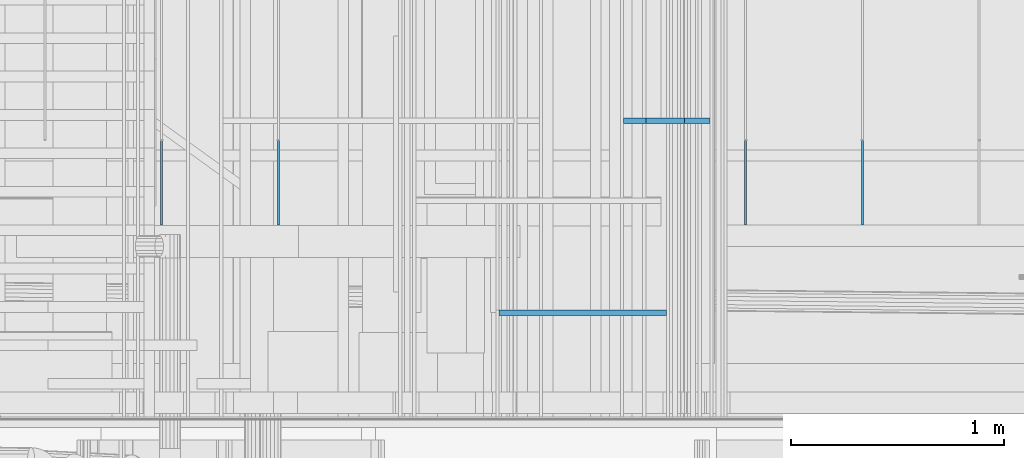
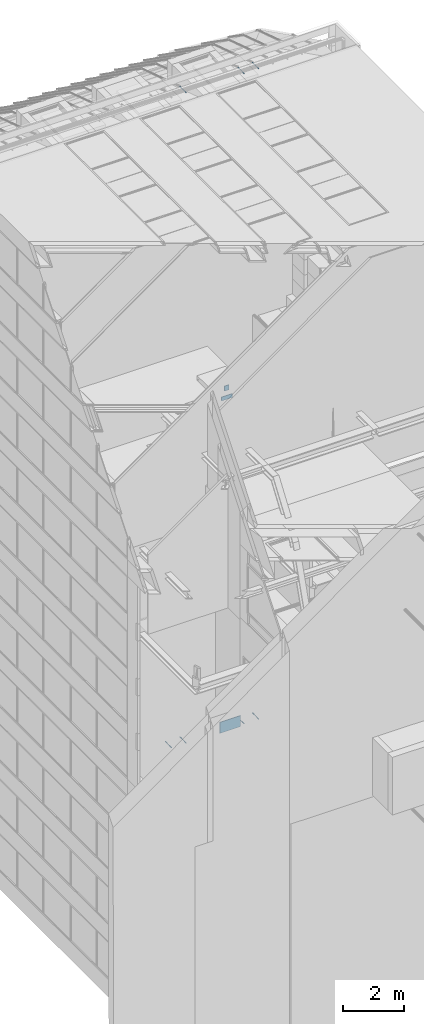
# One storey, part 309 of 583: 10 slabs.
"""IFC2X3 building model written with IfcOpenShell, lengths in metres."""

from ifc_helpers import new_model, entity, si_unit, converted_unit, derived_unit, money_unit, direction, frame, origin_with_axes, place, context, subcontext, project, spatial, faceted_brep, material, type_object, element, save


model = new_model("IFC2X3")

# Units and contexts
model_context = context("Model", 3, precision=1e-05, world=origin_with_axes(), true_north=direction((0.0, 1.0)))
body_context = subcontext(model_context, "Body", "Model", "MODEL_VIEW", scale=1.0)
ifc_project = project(units=[si_unit("LENGTHUNIT", "METRE"), si_unit("AREAUNIT", "SQUARE_METRE"), si_unit("VOLUMEUNIT", "CUBIC_METRE"), si_unit("ABSORBEDDOSEUNIT", "GRAY"), si_unit("AMOUNTOFSUBSTANCEUNIT", "MOLE"), si_unit("DOSEEQUIVALENTUNIT", "SIEVERT"), si_unit("ELECTRICCAPACITANCEUNIT", "FARAD"), si_unit("ELECTRICCHARGEUNIT", "COULOMB"), si_unit("ELECTRICCONDUCTANCEUNIT", "SIEMENS"), si_unit("ELECTRICCURRENTUNIT", "AMPERE"), si_unit("ELECTRICRESISTANCEUNIT", "OHM"), si_unit("ELECTRICVOLTAGEUNIT", "VOLT"), si_unit("ENERGYUNIT", "JOULE"), si_unit("FORCEUNIT", "NEWTON"), si_unit("FREQUENCYUNIT", "HERTZ"), si_unit("ILLUMINANCEUNIT", "LUX"), si_unit("INDUCTANCEUNIT", "HENRY"), si_unit("LUMINOUSFLUXUNIT", "LUMEN"), si_unit("LUMINOUSINTENSITYUNIT", "CANDELA"), si_unit("MAGNETICFLUXDENSITYUNIT", "TESLA"), si_unit("MAGNETICFLUXUNIT", "WEBER"), si_unit("MASSUNIT", "GRAM"), converted_unit("PLANEANGLEUNIT", "degree", entity("IfcReal", 0.0174532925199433), si_unit("PLANEANGLEUNIT", "RADIAN"), dimensions=[0, 0, 0, 0, 0, 0, 0]), si_unit("POWERUNIT", "WATT"), si_unit("PRESSUREUNIT", "PASCAL"), si_unit("RADIOACTIVITYUNIT", "BECQUEREL"), si_unit("SOLIDANGLEUNIT", "STERADIAN"), si_unit("THERMODYNAMICTEMPERATUREUNIT", "KELVIN"), si_unit("TIMEUNIT", "SECOND"), derived_unit("ACCELERATIONUNIT", [(si_unit("LENGTHUNIT", "METRE"), 1), (si_unit("TIMEUNIT", "SECOND"), -2)]), derived_unit("ANGULARVELOCITYUNIT", [(converted_unit("PLANEANGLEUNIT", "degree", entity("IfcReal", 0.0174532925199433), si_unit("PLANEANGLEUNIT", "RADIAN"), dimensions=[0, 0, 0, 0, 0, 0, 0]), 1), (si_unit("TIMEUNIT", "SECOND"), -1)]), derived_unit("CURVATUREUNIT", [(converted_unit("PLANEANGLEUNIT", "degree", entity("IfcReal", 0.0174532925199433), si_unit("PLANEANGLEUNIT", "RADIAN"), dimensions=[0, 0, 0, 0, 0, 0, 0]), 1), (si_unit("LENGTHUNIT", "METRE"), -1)]), derived_unit("DYNAMICVISCOSITYUNIT", [(si_unit("PRESSUREUNIT", "PASCAL"), 1), (si_unit("TIMEUNIT", "SECOND"), 1)]), derived_unit("HEATFLUXDENSITYUNIT", [(si_unit("POWERUNIT", "WATT"), 1), (si_unit("LENGTHUNIT", "METRE"), -2)]), derived_unit("HEATINGVALUEUNIT", [(si_unit("ENERGYUNIT", "JOULE"), 1), (si_unit("MASSUNIT", "GRAM"), -1)]), derived_unit("INTEGERCOUNTRATEUNIT", [(si_unit("TIMEUNIT", "SECOND"), -1)]), derived_unit("IONCONCENTRATIONUNIT", [(si_unit("MASSUNIT", "GRAM"), 1), (si_unit("VOLUMEUNIT", "CUBIC_METRE"), -1)]), derived_unit("ISOTHERMALMOISTURECAPACITYUNIT", [(si_unit("VOLUMEUNIT", "CUBIC_METRE"), 1), (si_unit("MASSUNIT", "GRAM"), -1)]), derived_unit("KINEMATICVISCOSITYUNIT", [(si_unit("AREAUNIT", "SQUARE_METRE"), 1), (si_unit("TIMEUNIT", "SECOND"), -1)]), derived_unit("LINEARFORCEUNIT", [(si_unit("FORCEUNIT", "NEWTON"), 1), (si_unit("LENGTHUNIT", "METRE"), -1)]), derived_unit("LINEARMOMENTUNIT", [(si_unit("FORCEUNIT", "NEWTON"), 1), (si_unit("LENGTHUNIT", "METRE"), -1)]), derived_unit("LINEARSTIFFNESSUNIT", [(si_unit("FORCEUNIT", "NEWTON"), 1), (si_unit("LENGTHUNIT", "METRE"), -1)]), derived_unit("LINEARVELOCITYUNIT", [(si_unit("LENGTHUNIT", "METRE"), 1), (si_unit("TIMEUNIT", "SECOND"), -1)]), derived_unit("LUMINOUSINTENSITYDISTRIBUTIONUNIT", [(si_unit("LUMINOUSINTENSITYUNIT", "CANDELA"), 1), (si_unit("LUMINOUSFLUXUNIT", "LUMEN"), -1)]), derived_unit("MASSDENSITYUNIT", [(si_unit("MASSUNIT", "GRAM"), 1), (si_unit("VOLUMEUNIT", "CUBIC_METRE"), -1)]), derived_unit("MASSFLOWRATEUNIT", [(si_unit("MASSUNIT", "GRAM"), 1), (si_unit("TIMEUNIT", "SECOND"), -1)]), derived_unit("MASSPERLENGTHUNIT", [(si_unit("MASSUNIT", "GRAM"), 1), (si_unit("LENGTHUNIT", "METRE"), -1)]), derived_unit("MODULUSOFELASTICITYUNIT", [(si_unit("FORCEUNIT", "NEWTON"), 1), (si_unit("AREAUNIT", "SQUARE_METRE"), -1)]), derived_unit("MODULUSOFLINEARSUBGRADEREACTIONUNIT", [(si_unit("FORCEUNIT", "NEWTON"), 1), (si_unit("LENGTHUNIT", "METRE"), -2)]), derived_unit("MODULUSOFROTATIONALSUBGRADEREACTIONUNIT", [(si_unit("FORCEUNIT", "NEWTON"), 1), (si_unit("LENGTHUNIT", "METRE"), 1)]), derived_unit("MODULUSOFSUBGRADEREACTIONUNIT", [(si_unit("FORCEUNIT", "NEWTON"), 1), (si_unit("VOLUMEUNIT", "CUBIC_METRE"), -1)]), derived_unit("MOISTUREDIFFUSIVITYUNIT", [(si_unit("VOLUMEUNIT", "CUBIC_METRE"), 1), (si_unit("TIMEUNIT", "SECOND"), -1)]), derived_unit("MOLECULARWEIGHTUNIT", [(si_unit("MASSUNIT", "GRAM"), 1), (si_unit("AMOUNTOFSUBSTANCEUNIT", "MOLE"), -1)]), derived_unit("PLANARFORCEUNIT", [(si_unit("FORCEUNIT", "NEWTON"), 1), (si_unit("LENGTHUNIT", "METRE"), -2)]), derived_unit("ROTATIONALFREQUENCYUNIT", [(si_unit("TIMEUNIT", "SECOND"), -1)]), derived_unit("ROTATIONALMASSUNIT", [(si_unit("MASSUNIT", "GRAM"), 1), (si_unit("LENGTHUNIT", "METRE"), 2)]), derived_unit("ROTATIONALSTIFFNESSUNIT", [(si_unit("FORCEUNIT", "NEWTON"), 1), (si_unit("LENGTHUNIT", "METRE"), 1), (converted_unit("PLANEANGLEUNIT", "degree", entity("IfcReal", 0.0174532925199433), si_unit("PLANEANGLEUNIT", "RADIAN"), dimensions=[0, 0, 0, 0, 0, 0, 0]), -1)]), derived_unit("SECTIONAREAINTEGRALUNIT", [(si_unit("LENGTHUNIT", "METRE"), 5)]), derived_unit("SECTIONMODULUSUNIT", [(si_unit("LENGTHUNIT", "METRE"), 3)]), derived_unit("SHEARMODULUSUNIT", [(si_unit("FORCEUNIT", "NEWTON"), 1), (si_unit("AREAUNIT", "SQUARE_METRE"), -1)]), derived_unit("SOUNDPOWERUNIT", [(si_unit("ENERGYUNIT", "JOULE"), 1), (si_unit("TIMEUNIT", "SECOND"), -1)]), derived_unit("SPECIFICHEATCAPACITYUNIT", [(si_unit("FORCEUNIT", "NEWTON"), 1), (si_unit("MASSUNIT", "GRAM"), -1), (si_unit("THERMODYNAMICTEMPERATUREUNIT", "KELVIN"), -1)]), derived_unit("TEMPERATUREGRADIENTUNIT", [(si_unit("THERMODYNAMICTEMPERATUREUNIT", "KELVIN"), 1), (si_unit("LENGTHUNIT", "METRE"), -1)]), derived_unit("THERMALADMITTANCEUNIT", [(si_unit("POWERUNIT", "WATT"), 1), (si_unit("AREAUNIT", "SQUARE_METRE"), -1), (si_unit("THERMODYNAMICTEMPERATUREUNIT", "KELVIN"), -1)]), derived_unit("THERMALCONDUCTANCEUNIT", [(si_unit("POWERUNIT", "WATT"), 1), (si_unit("LENGTHUNIT", "METRE"), -1), (si_unit("THERMODYNAMICTEMPERATUREUNIT", "KELVIN"), -1)]), derived_unit("THERMALEXPANSIONCOEFFICIENTUNIT", [(si_unit("THERMODYNAMICTEMPERATUREUNIT", "KELVIN"), -1)]), derived_unit("THERMALRESISTANCEUNIT", [(si_unit("AREAUNIT", "SQUARE_METRE"), 1), (si_unit("POWERUNIT", "WATT"), -1)]), derived_unit("THERMALTRANSMITTANCEUNIT", [(si_unit("POWERUNIT", "WATT"), 1), (si_unit("AREAUNIT", "SQUARE_METRE"), -1), (si_unit("THERMODYNAMICTEMPERATUREUNIT", "KELVIN"), -1)]), derived_unit("TORQUEUNIT", [(si_unit("FORCEUNIT", "NEWTON"), 1), (si_unit("LENGTHUNIT", "METRE"), 1)]), derived_unit("VAPORPERMEABILITYUNIT", [(si_unit("MASSUNIT", "GRAM"), 1), (si_unit("TIMEUNIT", "SECOND"), -1)]), derived_unit("VOLUMETRICFLOWRATEUNIT", [(si_unit("VOLUMEUNIT", "CUBIC_METRE"), 1), (si_unit("TIMEUNIT", "SECOND"), -1)]), derived_unit("WARPINGCONSTANTUNIT", [(si_unit("LENGTHUNIT", "METRE"), 6)]), derived_unit("WARPINGMOMENTUNIT", [(si_unit("FORCEUNIT", "NEWTON"), 1), (si_unit("LENGTHUNIT", "METRE"), 2)]), money_unit("GBP")], contexts=[model_context])

# Site, building, storey
site_placement = place(None, origin_with_axes())
site = spatial("IfcSite", under=ifc_project, at=site_placement, Name="Site", CompositionType="ELEMENT")
building_placement = place(site_placement, origin_with_axes())
building = spatial("IfcBuilding", under=site, at=building_placement, Name="Building01", CompositionType="ELEMENT")
storey_placement = place(building_placement, frame((0.0, 0.0, 20.78), z_axis=(0.0, 0.0, 1.0), x_axis=(1.0, 0.0, 0.0)))
storey = spatial("IfcBuildingStorey", under=building, at=storey_placement, Name="RL", CompositionType="ELEMENT", Elevation=20.78)

# Slabs
ifc_material_1 = material(Name="A_BSUK_Ceramic_WallTiles")
slab_type = type_object("IfcSlabType", Name="A-FloorsSlabs A_BSUK_Slabs", PredefinedType="FLOOR")
placement = place(storey_placement, frame((0.0, 0.0, -20.78), z_axis=(0.0, 0.0, 1.0), x_axis=(1.0, 0.0, 0.0)))
element("IfcSlab", 1, at=placement, inside=storey, type_object=slab_type, material=ifc_material_1, Name="A-FloorsSlabs A_BSUK_Slabs", ObjectType="CompoundSlabLeaf", context=body_context, shape_type="Brep", body=[
    faceted_brep([(10.698806, 16.355, 13.44999), (10.698806, 16.38, 13.44999), (10.698806, 16.38, 13.29737), (10.698806, 16.355, 13.29737), (11.103849, 16.355, 13.44999), (11.103849, 16.38, 13.44999), (11.103855, 16.355, 13.29736), (11.103855, 16.38, 13.29736)], [[[0, 1, 2, 3]], [[4, 5, 1, 0]], [[6, 7, 5, 4]], [[3, 2, 7, 6]], [[1, 5, 7, 2]], [[3, 6, 4, 0]]]),
])
element("IfcSlab", 2, at=placement, inside=storey, type_object=slab_type, material=ifc_material_1, Name="A-FloorsSlabs A_BSUK_Slabs", ObjectType="CompoundSlabLeaf", context=body_context, shape_type="Brep", body=[
    faceted_brep([(10.803883, 16.355, 13.849998), (10.803883, 16.38, 13.849998), (10.803883, 16.38, 13.65), (10.803883, 16.355, 13.65), (10.983789, 16.355, 13.849998), (10.983789, 16.38, 13.849998), (10.983789, 16.355, 13.65), (10.983789, 16.38, 13.65)], [[[0, 1, 2, 3]], [[4, 5, 1, 0]], [[6, 7, 5, 4]], [[3, 2, 7, 6]], [[1, 5, 7, 2]], [[3, 6, 4, 0]]]),
])
element("IfcSlab", 3, at=placement, inside=storey, type_object=slab_type, material=ifc_material_1, Name="A-FloorsSlabs A_BSUK_Slabs", ObjectType="CompoundSlabLeaf", context=body_context, shape_type="Brep", body=[
    faceted_brep([(10.114939, 15.455, 1.22), (10.114939, 15.48, 1.22), (10.114939, 15.48, 0.779939), (10.114939, 15.455, 0.779939), (10.899939, 15.455, 1.22), (10.899939, 15.48, 1.22), (10.899939, 15.455, 0.779939), (10.899939, 15.48, 0.779939)], [[[0, 1, 2, 3]], [[4, 5, 1, 0]], [[6, 7, 5, 4]], [[3, 2, 7, 6]], [[1, 5, 7, 2]], [[3, 6, 4, 0]]]),
])
ifc_material_2 = material(Name="A_BSUK_Roofs")
for number, where, z_axis, x_axis, name in (
    (4, (9.085953, 15.034499, 5.68), (0.0, 1.0, 0.0), (1.0, 0.0, 0.0), "A-FloorsSlabs A_BSUK_Slabs"),
    (5, (11.275953, 15.034499, 5.68), (0.0, 1.0, 0.0), (1.0, 0.0, 0.0), "A-FloorsSlabs A_BSUK_Slabs"),
    (6, (11.823453, 15.034499, 5.68), (0.0, 1.0, 0.0), (1.0, 0.0, 0.0), "A-FloorsSlabs A_BSUK_Slabs"),
):
    element("IfcSlab", number, at=place(storey_placement, frame(where, z_axis=z_axis, x_axis=x_axis)), inside=storey, type_object=slab_type, material=ifc_material_2, Name=name, ObjectType="A-FloorsSlabs A_BSUK_Slabs", context=body_context, shape_type="Brep", body=[
        faceted_brep([(0.0, 0.0, 1.239928), (0.0, -0.02, 1.239928), (0.0, -0.02, 0.845501), (0.0, 0.0, 0.845501), (-0.01, -0.02, 0.845501), (-0.01, 0.0, 0.845501), (-0.01, -0.02, 1.239928), (-0.01, 0.0, 1.239928)], [[[0, 1, 2, 3]], [[3, 2, 4, 5]], [[5, 4, 6, 7]], [[7, 6, 1, 0]], [[1, 6, 4, 2]], [[3, 5, 7, 0]]]),
    ])
for number, where, z_axis, x_axis, name in (
    (7, (9.085953, 15.034499, -20.26), (0.0, 1.0, 0.0), (-1.0, 0.0, 0.0), "A-FloorsSlabs A_BSUK_Slabs"),
    (8, (8.538453, 15.034499, -20.26), (0.0, 1.0, 0.0), (-1.0, 0.0, 0.0), "A-FloorsSlabs A_BSUK_Slabs"),
    (9, (11.275953, 15.034499, -20.26), (0.0, 1.0, 0.0), (-1.0, 0.0, 0.0), "A-FloorsSlabs A_BSUK_Slabs"),
    (10, (11.823453, 15.034499, -20.26), (0.0, 1.0, 0.0), (-1.0, 0.0, 0.0), "A-FloorsSlabs A_BSUK_Slabs"),
):
    element("IfcSlab", number, at=place(storey_placement, frame(where, z_axis=z_axis, x_axis=x_axis)), inside=storey, type_object=slab_type, material=ifc_material_2, Name=name, ObjectType="A-FloorsSlabs A_BSUK_Slabs", context=body_context, shape_type="Brep", body=[
        faceted_brep([(0.0, 0.0, 0.845501), (0.0, -0.02, 0.845501), (0.0, -0.02, 1.239928), (0.0, 0.0, 1.239928), (0.01, 0.0, 0.845501), (0.01, -0.02, 0.845501), (0.01, 0.0, 1.239928), (0.01, -0.02, 1.239928)], [[[0, 1, 2, 3]], [[4, 5, 1, 0]], [[6, 7, 5, 4]], [[3, 2, 7, 6]], [[1, 5, 7, 2]], [[3, 6, 4, 0]]]),
    ])

save(model, "model.ifc")
